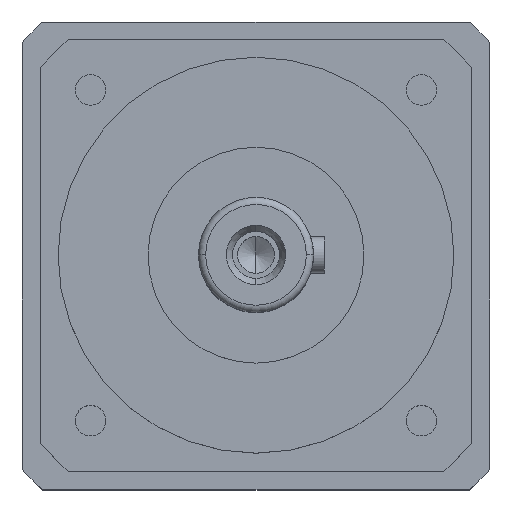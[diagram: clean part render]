
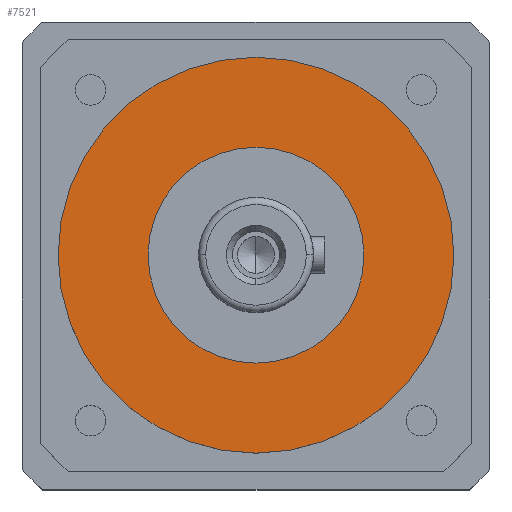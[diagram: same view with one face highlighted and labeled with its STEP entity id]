
A CAD part, top view. The second image highlights one B-rep face of the part: STEP entity #7521.
In plain terms, the highlighted planar face has unit normal (0, 0, 1).
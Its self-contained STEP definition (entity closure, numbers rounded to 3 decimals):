
#858 = FACE_BOUND ( 'NONE', #10245, .T. ) ;
#1410 = ORIENTED_EDGE ( 'NONE', *, *, #24470, .F. ) ;
#2169 = VERTEX_POINT ( 'NONE', #43154 ) ;
#5232 = DIRECTION ( 'NONE',  ( 1., 0., 0. ) ) ;
#5325 = DIRECTION ( 'NONE',  ( 0., 0., 1. ) ) ;
#5378 = CARTESIAN_POINT ( 'NONE',  ( 0., 0., -52. ) ) ;
#6434 = EDGE_CURVE ( 'NONE', #2169, #36763, #12389, .T. ) ;
#7521 = ADVANCED_FACE ( 'NONE', ( #858, #43219 ), #23763, .F. ) ;
#7860 = CARTESIAN_POINT ( 'NONE',  ( 55., 0., -52. ) ) ;
#7970 = CIRCLE ( 'NONE', #15646, 30. ) ;
#8771 = ORIENTED_EDGE ( 'NONE', *, *, #36576, .F. ) ;
#8930 = VERTEX_POINT ( 'NONE', #24202 ) ;
#9070 = AXIS2_PLACEMENT_3D ( 'NONE', #5378, #5325, #5232 ) ;
#10245 = EDGE_LOOP ( 'NONE', ( #1410, #24889 ) ) ;
#10554 = ORIENTED_EDGE ( 'NONE', *, *, #32466, .F. ) ;
#12389 = CIRCLE ( 'NONE', #9070, 30. ) ;
#12611 = DIRECTION ( 'NONE',  ( 0., 0., 1. ) ) ;
#13456 = CIRCLE ( 'NONE', #37452, 55. ) ;
#14338 = AXIS2_PLACEMENT_3D ( 'NONE', #16222, #39660, #19630 ) ;
#14347 = CIRCLE ( 'NONE', #14338, 55. ) ;
#14434 = DIRECTION ( 'NONE',  ( 0., 0., -1. ) ) ;
#15531 = AXIS2_PLACEMENT_3D ( 'NONE', #24036, #23532, #23418 ) ;
#15646 = AXIS2_PLACEMENT_3D ( 'NONE', #32735, #12611, #36107 ) ;
#16222 = CARTESIAN_POINT ( 'NONE',  ( 0., 0., -52. ) ) ;
#19630 = DIRECTION ( 'NONE',  ( 1., 0., 0. ) ) ;
#23418 = DIRECTION ( 'NONE',  ( -1., 0., 0. ) ) ;
#23532 = DIRECTION ( 'NONE',  ( 0., 0., -1. ) ) ;
#23763 = PLANE ( 'NONE',  #15531 ) ;
#24036 = CARTESIAN_POINT ( 'NONE',  ( 0., 30., -52. ) ) ;
#24202 = CARTESIAN_POINT ( 'NONE',  ( -55., 0., -52. ) ) ;
#24470 = EDGE_CURVE ( 'NONE', #36763, #2169, #7970, .T. ) ;
#24889 = ORIENTED_EDGE ( 'NONE', *, *, #6434, .F. ) ;
#29250 = EDGE_LOOP ( 'NONE', ( #8771, #10554 ) ) ;
#32466 = EDGE_CURVE ( 'NONE', #8930, #39257, #13456, .T. ) ;
#32735 = CARTESIAN_POINT ( 'NONE',  ( 0., 0., -52. ) ) ;
#34224 = CARTESIAN_POINT ( 'NONE',  ( 30., 0., -52. ) ) ;
#34559 = CARTESIAN_POINT ( 'NONE',  ( 0., 0., -52. ) ) ;
#36107 = DIRECTION ( 'NONE',  ( 1., 0., 0. ) ) ;
#36576 = EDGE_CURVE ( 'NONE', #39257, #8930, #14347, .T. ) ;
#36763 = VERTEX_POINT ( 'NONE', #34224 ) ;
#37452 = AXIS2_PLACEMENT_3D ( 'NONE', #34559, #14434, #37908 ) ;
#37908 = DIRECTION ( 'NONE',  ( 1., 0., 0. ) ) ;
#39257 = VERTEX_POINT ( 'NONE', #7860 ) ;
#39660 = DIRECTION ( 'NONE',  ( 0., 0., -1. ) ) ;
#43154 = CARTESIAN_POINT ( 'NONE',  ( -30., 0., -52. ) ) ;
#43219 = FACE_OUTER_BOUND ( 'NONE', #29250, .T. ) ;
